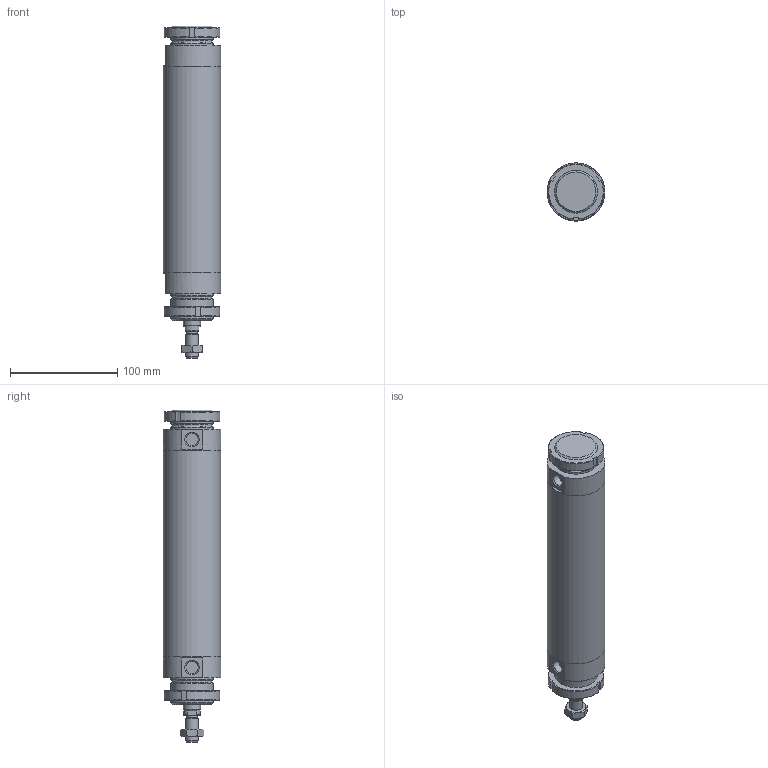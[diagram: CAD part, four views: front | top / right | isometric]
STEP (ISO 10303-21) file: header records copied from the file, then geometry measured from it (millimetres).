
FILE_DESCRIPTION(/* description */ (''),/* implementation_level */ '2;1');
FILE_NAME(/* name */ 'I:\Area Tecnica\Documenti\A-Manieri\_Inventor\12X\12X#C_###_####_#_#\12XAC_050_0150_#_#.stp',/* time_stamp */ '2015-04-28T15:19:51+02:00',/* author */ ('maniean1'),/* organization */ ('Pneumax S.p.A.'),/* preprocessor_version */ 'ST-DEVELOPER v15.2',/* originating_system */ 'Autodesk Inventor 2014',/* authorisation */ '');
FILE_SCHEMA (('AUTOMOTIVE_DESIGN { 1 0 10303 214 3 1 1 }'));
Length unit declared in the file: millimetre
Products named in the file (7): C1250_619-0150; 12X50_604; S12X50_0150; 12X_50_11; 12X50_620; G12X_050_05; 12XAC_050_0150_#_#
Bounding box: 54 x 54 x 310 mm (x, y, z)
Volume: 340590 mm3; surface area: 118255.4 mm2
Topology: 7 solids, 7 shells, 106 faces, 240 edges, 154 vertices
Faces by surface type: plane 52, cylinder 27, cone 27
Full cylindrical faces by diameter (mm): 10.2 x1, 11.4 x2, 12 x2, 14 x1, 15.6 x1, 16 x1, 38.2 x2, 40 x6, 50 x2, 54 x3
Entity records: 2243 total; most frequent: CARTESIAN_POINT 413, DIRECTION 382, ORIENTED_EDGE 292, AXIS2_PLACEMENT_3D 165, EDGE_CURVE 146, EDGE_LOOP 132, VERTEX_POINT 112, ADVANCED_FACE 85
